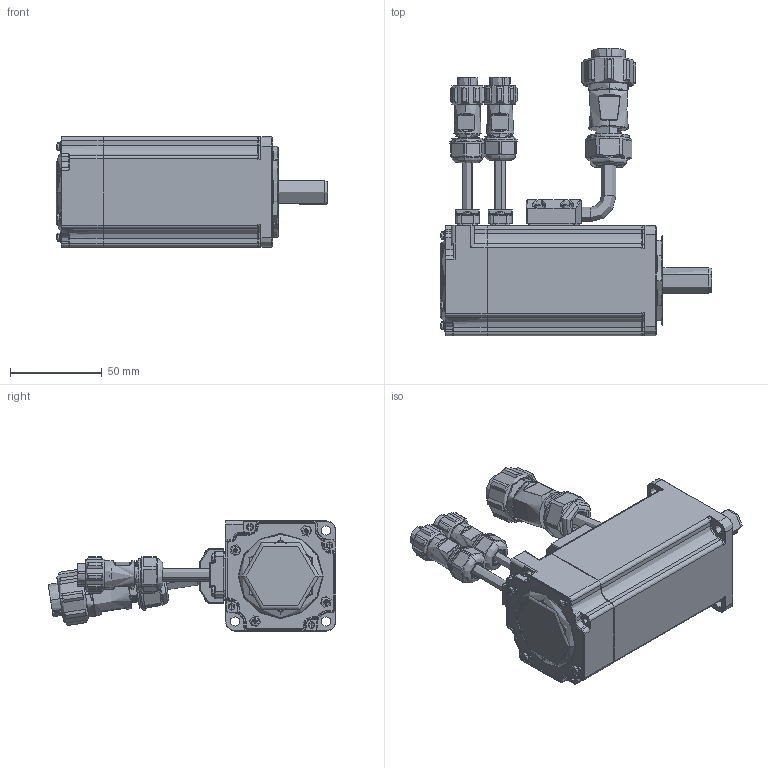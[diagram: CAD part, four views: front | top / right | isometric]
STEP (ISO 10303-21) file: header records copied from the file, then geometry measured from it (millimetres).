
FILE_DESCRIPTION (( 'STEP AP203' ), '1' );
FILE_NAME ('ALM06004H3G3-M17（400W抱闸）.STEP', '2021-09-28T03:25:47', ( 'Owner' ), ( 'Organization' ), 'SwSTEP 2.0', 'SolidWorks 2018', '' );
FILE_SCHEMA (( 'CONFIG_CONTROL_DESIGN' ));
Products named in the file (1): ALM06004H3G3-M17（400W抱闸）
Bounding box: 147.9 x 156.64 x 60 mm (x, y, z)
Topology: 56 solids, 59 shells, 4767 faces, 12073 edges, 7510 vertices
Faces by surface type: plane 1774, cylinder 1377, bspline 665, cone 499, torus 388, sphere 64
Full cylindrical faces by diameter (mm): 14.05 x1
Entity records: 203289 total; most frequent: CARTESIAN_POINT 94596, ORIENTED_EDGE 23912, DIRECTION 20745, EDGE_CURVE 11956, AXIS2_PLACEMENT_3D 7925, VERTEX_POINT 7493, EDGE_LOOP 5125, LINE 4895
